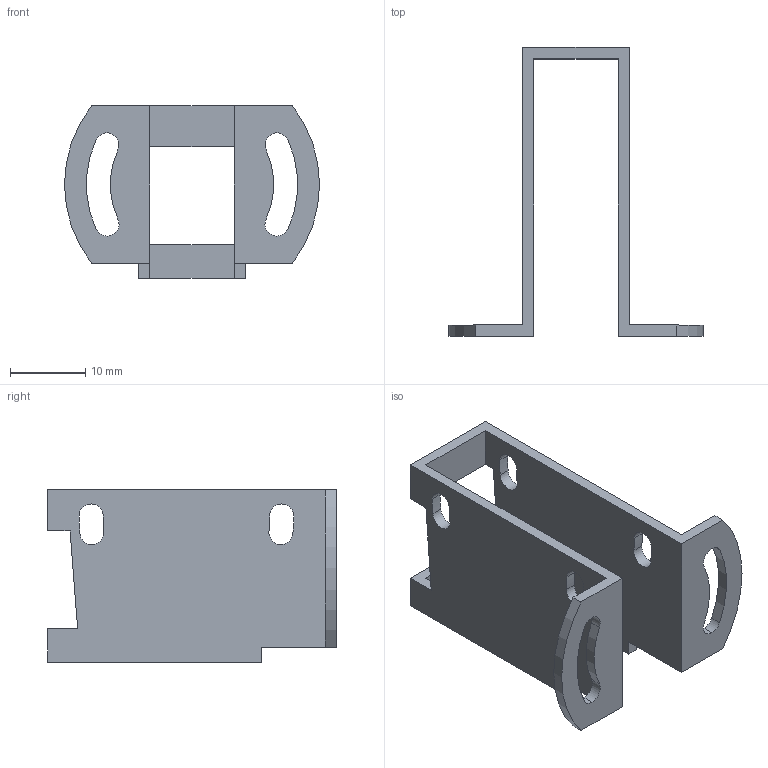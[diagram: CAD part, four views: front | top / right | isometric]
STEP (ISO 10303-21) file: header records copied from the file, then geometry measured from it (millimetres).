
FILE_DESCRIPTION (( 'STEP AP203' ), '1' );
FILE_NAME ('E39_L144.step', '2013-07-18T11:48:55', ( 'OSMC1.0 TAKUMI' ), ( 'TAKUMI-Engniaring' ), 'SwSTEP 2.0', 'SolidWorks 2002025', '' );
FILE_SCHEMA (( 'CONFIG_CONTROL_DESIGN' ));
Length unit declared in the file: millimetre
Products named in the file (1): E39_L144
Bounding box: 34 x 38.5 x 23 mm (x, y, z)
Volume: 2959.4 mm3; surface area: 4598.2 mm2
Topology: 1 solids, 1 shells, 54 faces, 162 edges, 108 vertices
Faces by surface type: cylinder 32, plane 22
Entity records: 1955 total; most frequent: DIRECTION 336, CARTESIAN_POINT 325, ORIENTED_EDGE 324, EDGE_CURVE 162, AXIS2_PLACEMENT_3D 119, VERTEX_POINT 108, LINE 98, VECTOR 98
